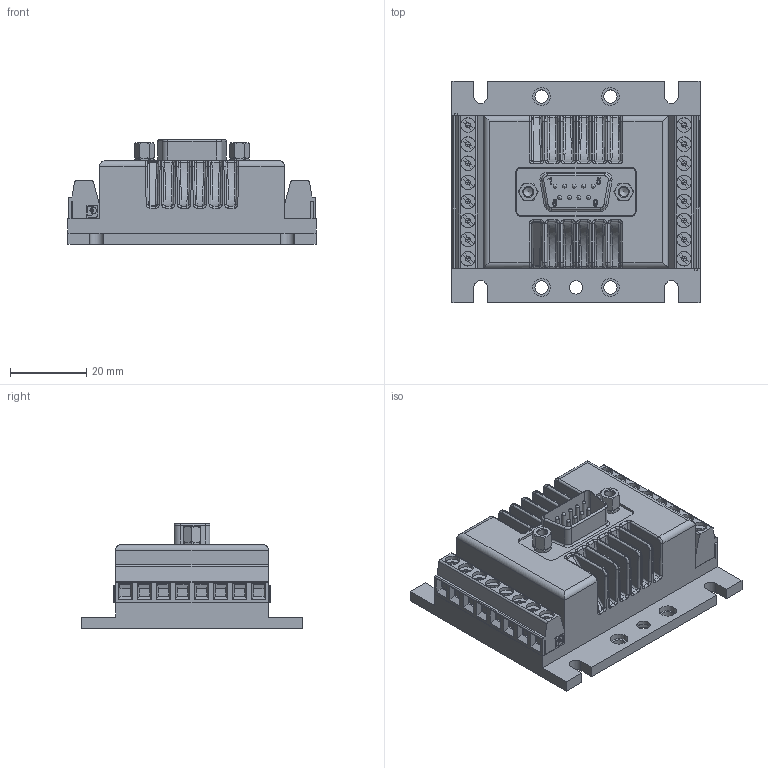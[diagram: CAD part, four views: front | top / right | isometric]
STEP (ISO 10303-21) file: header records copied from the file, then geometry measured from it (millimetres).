
FILE_DESCRIPTION(/* description */ (''),/* implementation_level */ '2;1');
FILE_NAME(/* name */ 'MC3006.stp',/* time_stamp */ '2011-11-10T10:19:40+01:00',/* author */ ('DR. FRITZ FAULHABER GmbH & Co. KG'),/* organization */ ('DR. FRITZ FAULHABER GmbH & Co. KG'),/* preprocessor_version */ 'ST-DEVELOPER v11',/* originating_system */ 'SIEMENS PLM Software NX 7.5',/* authorisation */ '');
FILE_SCHEMA (('AUTOMOTIVE_DESIGN { 1 0 10303 214 1 1 1 1 }'));
Length unit declared in the file: millimetre
Products named in the file (1): huge76D3fl50
Bounding box: 65 x 58 x 27.5 mm (x, y, z)
Volume: 52425.4 mm3; surface area: 20901.3 mm2
Topology: 4 solids, 8 shells, 1598 faces, 3884 edges, 2417 vertices
Faces by surface type: plane 917, cylinder 451, bspline 112, cone 70, torus 24, extrusion 15, sphere 9
Full cylindrical faces by diameter (mm): 1 x9, 1.2 x9, 1.5 x9, 2.5 x6, 2.9 x4, 3.2 x2, 3.5 x5, 4.5 x2, 4.6 x4, 4.7 x4, 5.5 x4, 6.5 x1
Entity records: 56719 total; most frequent: CARTESIAN_POINT 12626, DIRECTION 7534, ORIENTED_EDGE 7432, EDGE_CURVE 3716, AXIS2_PLACEMENT_3D 2641, VERTEX_POINT 2362, VECTOR 2252, LINE 2237
